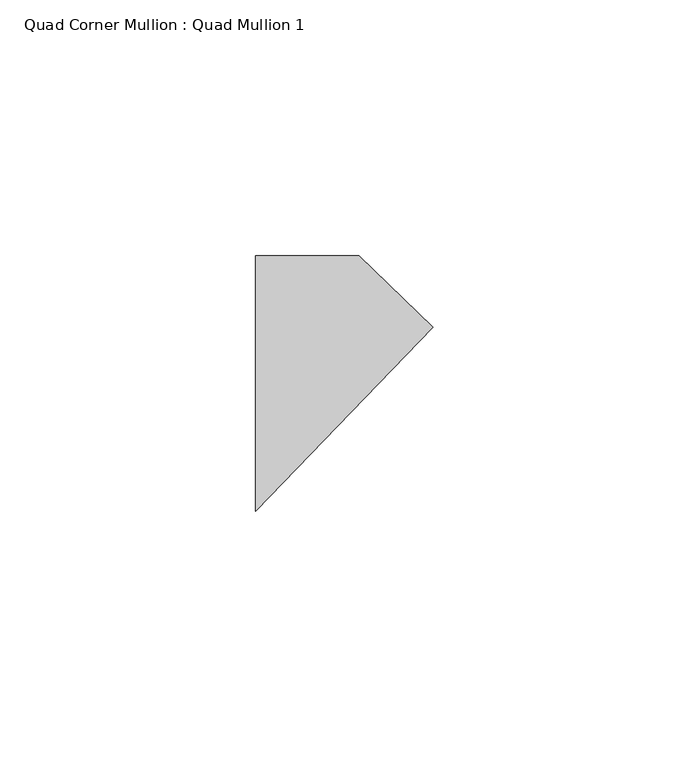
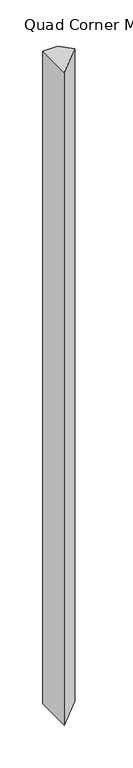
"""IFC4 building model written with IfcOpenShell, lengths in millimetres: member geometry, Quad Corner Mullion : Quad Mullion 1."""

from ifc_helpers import new_model, si_unit, frame, origin, place, context, project, spatial, polyline, outline, extrude, source, transform, mapped, element, save


def quad_corner_mullion_quad_mullion_1_db75a806(model_context):
    return source(origin(), model_context, "Body", "SweptSolid", [
        extrude(outline(polyline([(24.6322629, 10.96699), (-10.1006556, -25.0), (-10.1006556, 25.0), (10.1006556, 25.0), (24.6322629, 10.96699)])), frame((0.0, 0.0, -930.0), z_axis=(0.0, 0.0, 1.0), x_axis=(1.0, 0.0, 0.0)), (0.0, 0.0, 1.0), 930.0),
    ])


if __name__ == "__main__":
    model = new_model("IFC4")
    model_context = context("Model", 3, world=origin())
    ifc_project = project(units=[si_unit("LENGTHUNIT", "METRE", prefix="MILLI")], contexts=[model_context])
    site = spatial("IfcSite", under=ifc_project)
    building = spatial("IfcBuilding", under=site)
    placement = place(None, origin())
    quad_corner_mullion_quad_mullion_1_shape = quad_corner_mullion_quad_mullion_1_db75a806(model_context)
    element("IfcMember", 1, ObjectType="Quad Corner Mullion : Quad Mullion 1", at=placement, inside=building, context=model_context, shape_type="MappedRepresentation", body=[
        mapped(quad_corner_mullion_quad_mullion_1_shape, transform((0.0, 0.0, 0.0), x_axis=(1.0, 0.0, 0.0), y_axis=(0.0, 1.0, 0.0), z_axis=(0.0, 0.0, 1.0))),
    ])
    save(model, "model.ifc")
